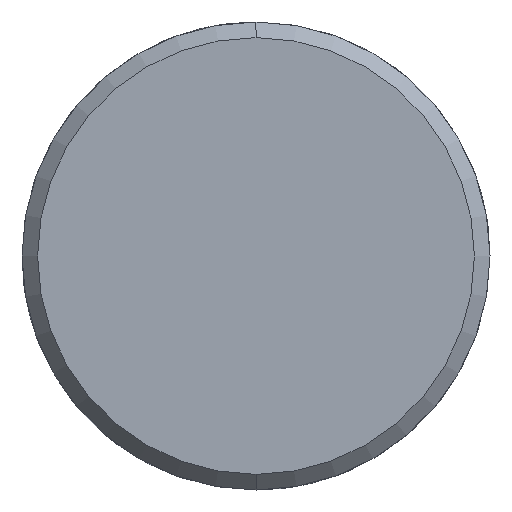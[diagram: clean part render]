
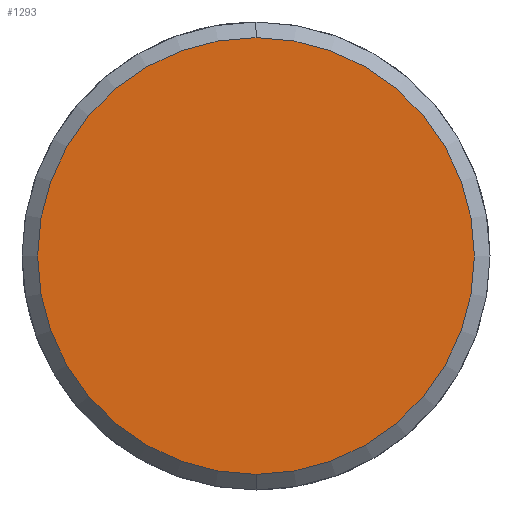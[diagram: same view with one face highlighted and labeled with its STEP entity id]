
A CAD part, left-side view. The second image highlights one B-rep face of the part: STEP entity #1293.
In plain terms, the highlighted planar face has unit normal (-1, 0, 0).
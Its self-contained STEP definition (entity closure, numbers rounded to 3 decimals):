
#1225=CARTESIAN_POINT('Vertex',(-5.,0.,-14.)) ;
#1228=CARTESIAN_POINT('Axis2P3D Location',(-5.,0.,0.)) ;
#1232=CARTESIAN_POINT('Vertex',(-5.,14.,0.)) ;
#1235=CARTESIAN_POINT('Axis2P3D Location',(-5.,0.,0.)) ;
#1239=CARTESIAN_POINT('Vertex',(-5.,0.,14.)) ;
#1261=CARTESIAN_POINT('Axis2P3D Location',(-5.,0.,0.)) ;
#1265=CARTESIAN_POINT('Vertex',(-5.,-14.,0.)) ;
#1268=CARTESIAN_POINT('Axis2P3D Location',(-5.,0.,0.)) ;
#1282=CARTESIAN_POINT('Axis2P3D Location',(-5.,0.,0.)) ;
#1229=DIRECTION('Axis2P3D Direction',(1.,0.,-0.)) ;
#1236=DIRECTION('Axis2P3D Direction',(1.,0.,-0.)) ;
#1262=DIRECTION('Axis2P3D Direction',(1.,0.,-0.)) ;
#1269=DIRECTION('Axis2P3D Direction',(1.,0.,-0.)) ;
#1283=DIRECTION('Axis2P3D Direction',(1.,0.,-0.)) ;
#1284=DIRECTION('Axis2P3D XDirection',(-0.,0.,-1.)) ;
#1230=AXIS2_PLACEMENT_3D('Circle Axis2P3D',#1228,#1229,$) ;
#1237=AXIS2_PLACEMENT_3D('Circle Axis2P3D',#1235,#1236,$) ;
#1263=AXIS2_PLACEMENT_3D('Circle Axis2P3D',#1261,#1262,$) ;
#1270=AXIS2_PLACEMENT_3D('Circle Axis2P3D',#1268,#1269,$) ;
#1285=AXIS2_PLACEMENT_3D('Plane Axis2P3D',#1282,#1283,#1284) ;
#1288=ORIENTED_EDGE('',*,*,#1234,.F.) ;
#1289=ORIENTED_EDGE('',*,*,#1272,.F.) ;
#1290=ORIENTED_EDGE('',*,*,#1267,.F.) ;
#1291=ORIENTED_EDGE('',*,*,#1241,.F.) ;
#1293=ADVANCED_FACE('351-18X36X120',(#1292),#1286,.F.) ;
#1231=CIRCLE('generated circle',#1230,14.) ;
#1238=CIRCLE('generated circle',#1237,14.) ;
#1264=CIRCLE('generated circle',#1263,14.) ;
#1271=CIRCLE('generated circle',#1270,14.) ;
#1234=EDGE_CURVE('',#1226,#1233,#1231,.T.) ;
#1241=EDGE_CURVE('',#1233,#1240,#1238,.T.) ;
#1267=EDGE_CURVE('',#1240,#1266,#1264,.T.) ;
#1272=EDGE_CURVE('',#1266,#1226,#1271,.T.) ;
#1287=EDGE_LOOP('',(#1288,#1289,#1290,#1291)) ;
#1292=FACE_OUTER_BOUND('',#1287,.T.) ;
#1286=PLANE('Plane',#1285) ;
#1226=VERTEX_POINT('',#1225) ;
#1233=VERTEX_POINT('',#1232) ;
#1240=VERTEX_POINT('',#1239) ;
#1266=VERTEX_POINT('',#1265) ;
